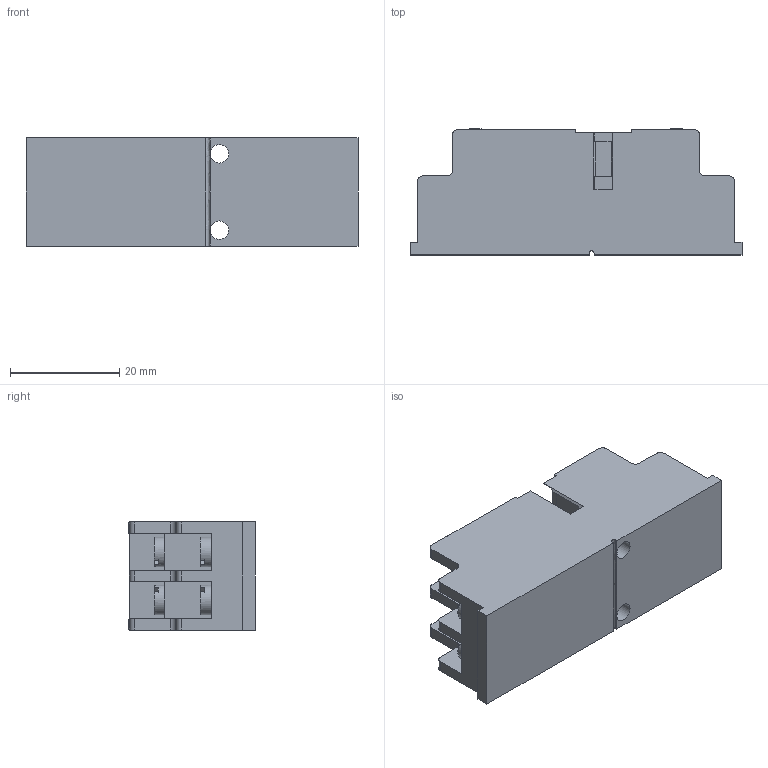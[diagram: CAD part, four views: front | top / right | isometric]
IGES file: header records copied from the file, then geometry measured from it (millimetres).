
Global section: file name: No Iges File Name specified; native system: Autodesk Inventor 2012; preprocessor: AutoDesk Inventor Iges Exporter R2012; author: a.vos; date: 20110526.114520; units: millimetre
Bounding box: 60.8 x 23.1 x 19.8 mm (x, y, z)
Volume: 20756.3 mm3; surface area: 7471.8 mm2
Topology: 1 solids, 1 shells, 383 faces, 1071 edges, 710 vertices
Faces by surface type: plane 270, bspline 84, cylinder 20, revolution 9
Full cylindrical faces by diameter (mm): 5.4 x8
